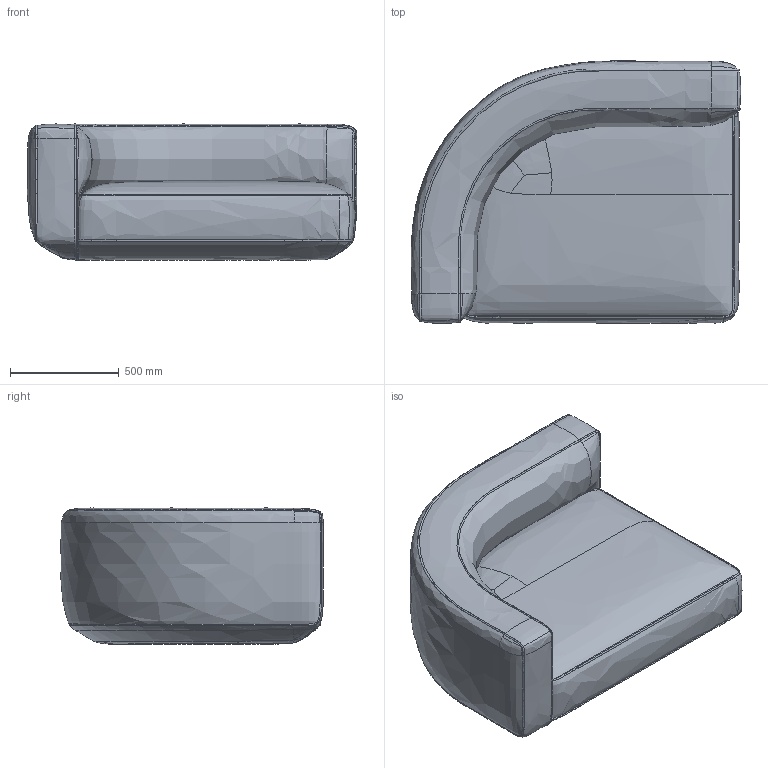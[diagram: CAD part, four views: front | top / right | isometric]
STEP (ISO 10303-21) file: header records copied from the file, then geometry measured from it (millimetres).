
FILE_DESCRIPTION(/* description */ (''),/* implementation_level */ '2;1');
FILE_NAME(/* name */ 'ANG.stp',/* time_stamp */ '2026-01-14T15:05:13+01:00',/* author */ (''),/* organization */ (''),/* preprocessor_version */ 'ST-DEVELOPER v16.7',/* originating_system */ 'SIEMENS PLM Software NX 1934',/* authorisation */ '');
FILE_SCHEMA (('AUTOMOTIVE_DESIGN { 1 0 10303 214 3 1 1 1 }'));
Products named in the file (1): fran900883B0uoaf
Bounding box: 1514.35 x 1207.16 x 625.21 mm (x, y, z)
Volume: 692424317.1 mm3; surface area: 5847700.7 mm2
Topology: 1 solids, 1 shells, 191 faces, 577 edges, 388 vertices
Faces by surface type: bspline 146, plane 34, cylinder 9, extrusion 1, torus 1
Entity records: 44094 total; most frequent: CARTESIAN_POINT 40302, ORIENTED_EDGE 1154, EDGE_CURVE 577, B_SPLINE_CURVE_WITH_KNOTS 493, VERTEX_POINT 388, DIRECTION 225, ADVANCED_FACE 191, FACE_OUTER_BOUND 191
